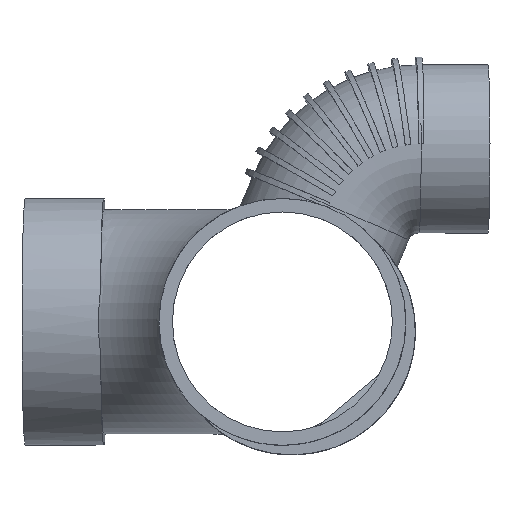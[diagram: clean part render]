
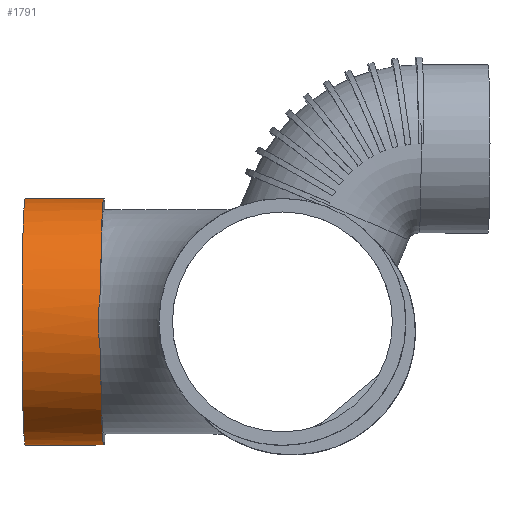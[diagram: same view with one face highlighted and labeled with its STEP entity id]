
A CAD part, front view. The second image highlights one B-rep face of the part: STEP entity #1791.
In plain terms, the highlighted cylindrical face has radius 55 mm (diameter 110 mm), a full revolution.
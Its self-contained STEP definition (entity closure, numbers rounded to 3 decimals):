
#244=FACE_OUTER_BOUND($,#540,.T.);
#360=CIRCLE($,#1982,55.);
#361=CIRCLE($,#1984,55.);
#443=FACE_BOUND($,#541,.T.);
#540=EDGE_LOOP($,(#1344,#1345));
#541=EDGE_LOOP($,(#1346));
#662=B_SPLINE_CURVE_WITH_KNOTS($,3,(#3399,#3400,#3401,#3402,#3403,#3404,
#3405,#3406),.UNSPECIFIED.,.F.,.F.,(4,2,2,4),(1.466,1.972,
3.918,4.425),.UNSPECIFIED.);
#760=VERTEX_POINT($,#3397);
#761=VERTEX_POINT($,#3398);
#762=VERTEX_POINT($,#3480);
#963=EDGE_CURVE($,#760,#761,#662,.T.);
#967=EDGE_CURVE($,#761,#760,#360,.T.);
#968=EDGE_CURVE($,#762,#762,#361,.T.);
#1344=ORIENTED_EDGE($,*,*,#963,.T.);
#1345=ORIENTED_EDGE($,*,*,#967,.T.);
#1346=ORIENTED_EDGE($,*,*,#968,.F.);
#1582=CYLINDRICAL_SURFACE($,#1985,55.);
#1791=ADVANCED_FACE($,(#244,#443),#1582,.T.);
#1982=AXIS2_PLACEMENT_3D($,#3478,#2374,#2375);
#1984=AXIS2_PLACEMENT_3D($,#3481,#2378,#2379);
#1985=AXIS2_PLACEMENT_3D($,#3482,#2380,#2381);
#2374=DIRECTION('center_axis',(-1.,0.026,0.));
#2375=DIRECTION('ref_axis',(-0.026,-1.,0.));
#2378=DIRECTION('center_axis',(-1.,0.026,0.));
#2379=DIRECTION('ref_axis',(-0.026,-1.,0.));
#2380=DIRECTION('center_axis',(1.,-0.026,0.));
#2381=DIRECTION('ref_axis',(-0.026,-1.,0.));
#3397=CARTESIAN_POINT('',(-80.96,84.076,-14.602));
#3398=CARTESIAN_POINT('',(-80.96,84.076,14.602));
#3399=CARTESIAN_POINT('Ctrl Pts',(-80.96,84.076,-14.602));
#3400=CARTESIAN_POINT('Ctrl Pts',(-81.185,83.638,-12.99));
#3401=CARTESIAN_POINT('Ctrl Pts',(-81.371,83.27,-11.351));
#3402=CARTESIAN_POINT('Ctrl Pts',(-82.083,81.847,-3.299));
#3403=CARTESIAN_POINT('Ctrl Pts',(-82.083,81.846,3.281));
#3404=CARTESIAN_POINT('Ctrl Pts',(-81.372,83.267,11.339));
#3405=CARTESIAN_POINT('Ctrl Pts',(-81.186,83.636,12.985));
#3406=CARTESIAN_POINT('Ctrl Pts',(-80.96,84.076,14.602));
#3478=CARTESIAN_POINT('Origin',(-79.572,137.084,0.));
#3480=CARTESIAN_POINT('',(-113.121,192.981,0.));
#3481=CARTESIAN_POINT('Origin',(-114.56,138.,0.));
#3482=CARTESIAN_POINT('Origin',(-114.56,138.,0.));
